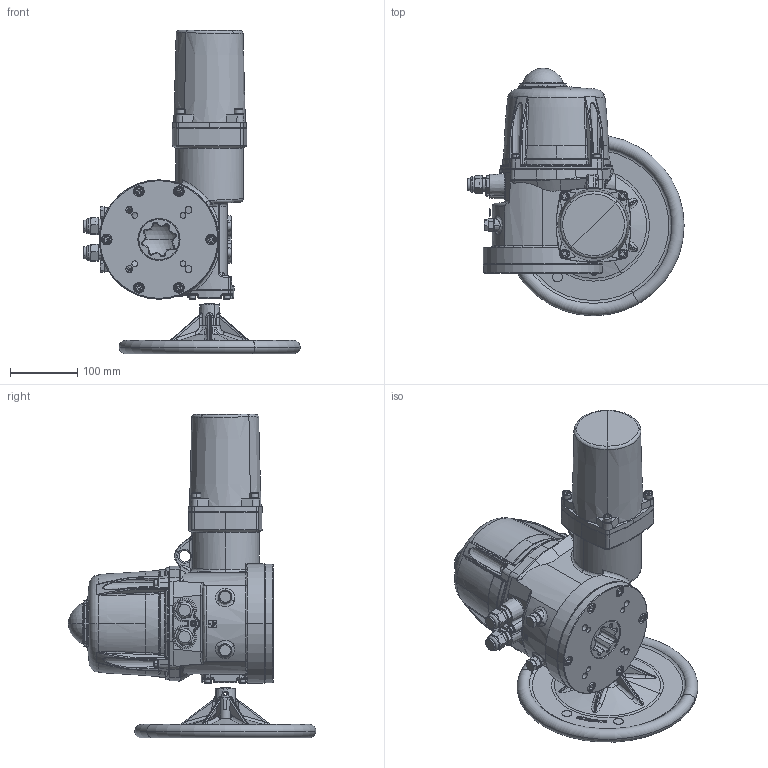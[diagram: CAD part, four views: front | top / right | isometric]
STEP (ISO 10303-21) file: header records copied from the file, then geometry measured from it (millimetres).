
FILE_DESCRIPTION (( 'STEP AP203' ), '1' );
FILE_NAME ('VT_enveloppe.step', '2011-06-10T10:06:12', ( 'Danfoss' ), ( 'Danfoss A/S' ), 'SwSTEP 2.0', 'SolidWorks 2008', '' );
FILE_SCHEMA (( 'CONFIG_CONTROL_DESIGN' ));
Length unit declared in the file: millimetre
Products named in the file (1): VT_enveloppe
Bounding box: 322.51 x 369.12 x 482.85 mm (x, y, z)
Surface area: 511078.7 mm2 (no closed solid volume)
Topology: 0 solids, 63 shells, 1549 faces, 4574 edges, 2956 vertices
Faces by surface type: plane 393, bspline 385, cylinder 321, torus 249, cone 167, sphere 34
Entity records: 70199 total; most frequent: CARTESIAN_POINT 32543, ORIENTED_EDGE 7652, DIRECTION 7439, EDGE_CURVE 4540, AXIS2_PLACEMENT_3D 3018, VERTEX_POINT 2956, CIRCLE 1853, EDGE_LOOP 1701
